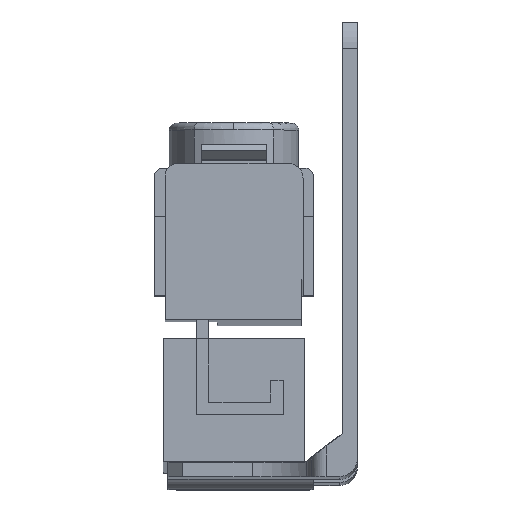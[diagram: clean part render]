
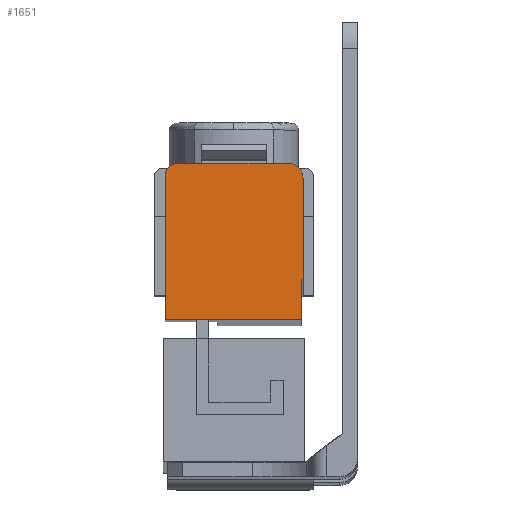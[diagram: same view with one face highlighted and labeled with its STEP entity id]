
A CAD part, front view. The second image highlights one B-rep face of the part: STEP entity #1651.
In plain terms, the highlighted planar face has unit normal (0, -1, 0.007).
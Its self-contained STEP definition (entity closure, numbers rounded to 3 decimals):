
#305 = VERTEX_POINT ( 'NONE', #5158 ) ;
#679 = FACE_OUTER_BOUND ( 'NONE', #2416, .T. ) ;
#1453 = LINE ( 'NONE', #3924, #1454 ) ;
#1454 = VECTOR ( 'NONE', #3925, 1000. ) ;
#1460 = CIRCLE ( 'NONE', #5438, 2.05 ) ;
#1466 = LINE ( 'NONE', #3939, #1467 ) ;
#1467 = VECTOR ( 'NONE', #3940, 1000. ) ;
#1473 = CIRCLE ( 'NONE', #5439, 1.75 ) ;
#1479 = LINE ( 'NONE', #3954, #1480 ) ;
#1480 = VECTOR ( 'NONE', #3955, 1000. ) ;
#1481 = LINE ( 'NONE', #3956, #1482 ) ;
#1482 = VECTOR ( 'NONE', #3957, 1000. ) ;
#1487 = LINE ( 'NONE', #3962, #1488 ) ;
#1488 = VECTOR ( 'NONE', #3963, 1000. ) ;
#1489 = LINE ( 'NONE', #3964, #1490 ) ;
#1490 = VECTOR ( 'NONE', #3965, 1000. ) ;
#1651 = ADVANCED_FACE ( 'NONE', ( #679 ), #4665, .T. ) ;
#1905 = CARTESIAN_POINT ( 'NONE',  ( -7.75, -25.244, -20.528 ) ) ;
#1908 = CARTESIAN_POINT ( 'NONE',  ( -26.5, -25.282, -26.028 ) ) ;
#1914 = CARTESIAN_POINT ( 'NONE',  ( -7.5, -25.244, -20.528 ) ) ;
#1917 = CARTESIAN_POINT ( 'NONE',  ( -7.5, -25.146, -6.578 ) ) ;
#1958 = CARTESIAN_POINT ( 'NONE',  ( -24.75, -25.132, -4.528 ) ) ;
#1960 = CARTESIAN_POINT ( 'NONE',  ( -26.5, -25.144, -6.278 ) ) ;
#1962 = CARTESIAN_POINT ( 'NONE',  ( -9.55, -25.132, -4.528 ) ) ;
#2416 = EDGE_LOOP ( 'NONE', ( #2772, #2771, #2770, #2769, #2768, #2767, #2766, #2763 ) ) ;
#2763 = ORIENTED_EDGE ( 'NONE', *, *, #5845, .T. ) ;
#2766 = ORIENTED_EDGE ( 'NONE', *, *, #5849, .T. ) ;
#2767 = ORIENTED_EDGE ( 'NONE', *, *, #5848, .T. ) ;
#2768 = ORIENTED_EDGE ( 'NONE', *, *, #5844, .T. ) ;
#2769 = ORIENTED_EDGE ( 'NONE', *, *, #5840, .T. ) ;
#2770 = ORIENTED_EDGE ( 'NONE', *, *, #5837, .T. ) ;
#2771 = ORIENTED_EDGE ( 'NONE', *, *, #5833, .T. ) ;
#2772 = ORIENTED_EDGE ( 'NONE', *, *, #5830, .T. ) ;
#3924 = CARTESIAN_POINT ( 'NONE',  ( -7.5, -25.146, -6.578 ) ) ;
#3925 = DIRECTION ( 'NONE',  ( 0., 0.007, 1. ) ) ;
#3930 = CARTESIAN_POINT ( 'NONE',  ( -9.55, -25.146, -6.578 ) ) ;
#3931 = DIRECTION ( 'NONE',  ( 0., -1., 0.007 ) ) ;
#3932 = DIRECTION ( 'NONE',  ( 0., 0.007, 1. ) ) ;
#3939 = CARTESIAN_POINT ( 'NONE',  ( -24.75, -25.132, -4.528 ) ) ;
#3940 = DIRECTION ( 'NONE',  ( -1., 0., 0. ) ) ;
#3945 = CARTESIAN_POINT ( 'NONE',  ( -24.75, -25.144, -6.278 ) ) ;
#3946 = DIRECTION ( 'NONE',  ( 0., -1., 0.007 ) ) ;
#3947 = DIRECTION ( 'NONE',  ( 0., -0.007, -1. ) ) ;
#3954 = CARTESIAN_POINT ( 'NONE',  ( -26.5, -25.144, -6.278 ) ) ;
#3955 = DIRECTION ( 'NONE',  ( 0., -0.007, -1. ) ) ;
#3956 = CARTESIAN_POINT ( 'NONE',  ( -26.5, -25.244, -20.528 ) ) ;
#3957 = DIRECTION ( 'NONE',  ( 1., 0., 0. ) ) ;
#3962 = CARTESIAN_POINT ( 'NONE',  ( -7.75, -25.282, -26.028 ) ) ;
#3963 = DIRECTION ( 'NONE',  ( 1., 0., 0. ) ) ;
#3964 = CARTESIAN_POINT ( 'NONE',  ( -7.75, -25.282, -26.028 ) ) ;
#3965 = DIRECTION ( 'NONE',  ( 0., 0.007, 1. ) ) ;
#4665 = PLANE ( 'NONE',  #5225 ) ;
#4666 = CARTESIAN_POINT ( 'NONE',  ( -24.75, -25.144, -6.278 ) ) ;
#4667 = DIRECTION ( 'NONE',  ( 0., -1., 0.007 ) ) ;
#4668 = DIRECTION ( 'NONE',  ( 0., -0.007, -1. ) ) ;
#4977 = VERTEX_POINT ( 'NONE', #1905 ) ;
#4981 = VERTEX_POINT ( 'NONE', #1908 ) ;
#4987 = VERTEX_POINT ( 'NONE', #1914 ) ;
#4990 = VERTEX_POINT ( 'NONE', #1917 ) ;
#5032 = VERTEX_POINT ( 'NONE', #1958 ) ;
#5034 = VERTEX_POINT ( 'NONE', #1960 ) ;
#5036 = VERTEX_POINT ( 'NONE', #1962 ) ;
#5158 = CARTESIAN_POINT ( 'NONE',  ( -7.75, -25.282, -26.028 ) ) ;
#5225 = AXIS2_PLACEMENT_3D ( 'NONE', #4666, #4667, #4668 ) ;
#5438 = AXIS2_PLACEMENT_3D ( 'NONE', #3930, #3931, #3932 ) ;
#5439 = AXIS2_PLACEMENT_3D ( 'NONE', #3945, #3946, #3947 ) ;
#5830 = EDGE_CURVE ( 'NONE', #4987, #4990, #1453, .T. ) ;
#5833 = EDGE_CURVE ( 'NONE', #4990, #5036, #1460, .T. ) ;
#5837 = EDGE_CURVE ( 'NONE', #5036, #5032, #1466, .T. ) ;
#5840 = EDGE_CURVE ( 'NONE', #5032, #5034, #1473, .T. ) ;
#5844 = EDGE_CURVE ( 'NONE', #5034, #4981, #1479, .T. ) ;
#5845 = EDGE_CURVE ( 'NONE', #4977, #4987, #1481, .T. ) ;
#5848 = EDGE_CURVE ( 'NONE', #4981, #305, #1487, .T. ) ;
#5849 = EDGE_CURVE ( 'NONE', #305, #4977, #1489, .T. ) ;
